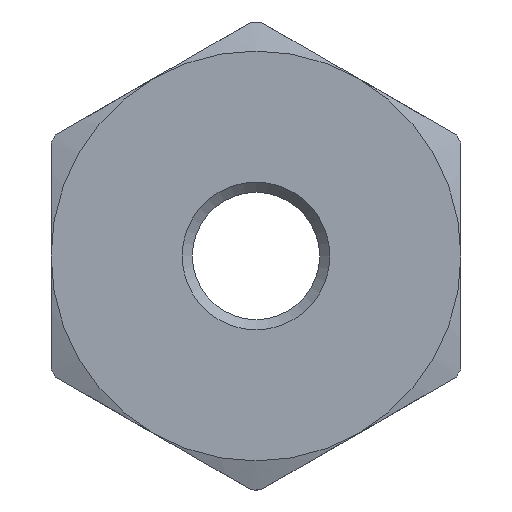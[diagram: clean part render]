
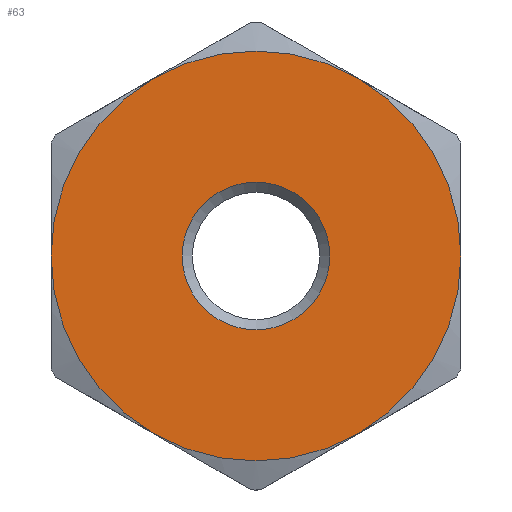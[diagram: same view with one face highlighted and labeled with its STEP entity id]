
A CAD part, front view. The second image highlights one B-rep face of the part: STEP entity #63.
In plain terms, the highlighted planar face has unit normal (0, -1, 0).
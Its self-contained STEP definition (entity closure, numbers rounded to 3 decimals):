
#63=ADVANCED_FACE('',(#209,#211),#213,.F.);
#209=FACE_BOUND('',#210,.T.);
#210=EDGE_LOOP('',(#399,#400,#401,#402,#403,#404));
#211=FACE_BOUND('',#212,.T.);
#212=EDGE_LOOP('',(#405));
#213=PLANE('',#214);
#214=AXIS2_PLACEMENT_3D('',#215,#216,#217);
#215=CARTESIAN_POINT('',(0.,0.,0.));
#216=DIRECTION('',(0.,1.,0.));
#217=DIRECTION('',(-1.,0.,0.));
#399=ORIENTED_EDGE('',*,*,#448,.T.);
#400=ORIENTED_EDGE('',*,*,#444,.T.);
#401=ORIENTED_EDGE('',*,*,#440,.T.);
#402=ORIENTED_EDGE('',*,*,#436,.T.);
#403=ORIENTED_EDGE('',*,*,#432,.T.);
#404=ORIENTED_EDGE('',*,*,#428,.T.);
#405=ORIENTED_EDGE('',*,*,#475,.T.);
#428=EDGE_CURVE('',#490,#488,#491,.F.);
#432=EDGE_CURVE('',#497,#490,#498,.F.);
#436=EDGE_CURVE('',#504,#497,#505,.F.);
#440=EDGE_CURVE('',#511,#504,#512,.F.);
#444=EDGE_CURVE('',#518,#511,#519,.F.);
#448=EDGE_CURVE('',#488,#518,#525,.F.);
#475=EDGE_CURVE('',#565,#565,#566,.T.);
#488=VERTEX_POINT('',#591);
#490=VERTEX_POINT('',#613);
#491=CIRCLE('',#614,30.);
#497=VERTEX_POINT('',#665);
#498=CIRCLE('',#666,30.);
#504=VERTEX_POINT('',#727);
#505=CIRCLE('',#728,30.);
#511=VERTEX_POINT('',#779);
#512=CIRCLE('',#780,30.);
#518=VERTEX_POINT('',#831);
#519=CIRCLE('',#832,30.);
#525=CIRCLE('',#888,30.);
#565=VERTEX_POINT('',#1007);
#566=CIRCLE('',#1008,10.816);
#591=CARTESIAN_POINT('',(15.,0.,-25.981));
#613=CARTESIAN_POINT('',(-15.,0.,-25.981));
#614=AXIS2_PLACEMENT_3D('',#615,#616,#617);
#615=CARTESIAN_POINT('',(0.,0.,0.));
#616=DIRECTION('',(0.,1.,0.));
#617=DIRECTION('',(0.5,0.,-0.866));
#665=CARTESIAN_POINT('',(-30.,0.,0.));
#666=AXIS2_PLACEMENT_3D('',#667,#668,#669);
#667=CARTESIAN_POINT('',(0.,0.,0.));
#668=DIRECTION('',(0.,1.,0.));
#669=DIRECTION('',(-0.5,0.,-0.866));
#727=CARTESIAN_POINT('',(-15.,0.,25.981));
#728=AXIS2_PLACEMENT_3D('',#729,#730,#731);
#729=CARTESIAN_POINT('',(0.,0.,0.));
#730=DIRECTION('',(0.,1.,0.));
#731=DIRECTION('',(-1.,0.,0.));
#779=CARTESIAN_POINT('',(15.,0.,25.981));
#780=AXIS2_PLACEMENT_3D('',#781,#782,#783);
#781=CARTESIAN_POINT('',(0.,0.,0.));
#782=DIRECTION('',(0.,1.,0.));
#783=DIRECTION('',(-0.5,0.,0.866));
#831=CARTESIAN_POINT('',(30.,0.,0.));
#832=AXIS2_PLACEMENT_3D('',#833,#834,#835);
#833=CARTESIAN_POINT('',(0.,0.,0.));
#834=DIRECTION('',(0.,1.,0.));
#835=DIRECTION('',(0.5,0.,0.866));
#888=AXIS2_PLACEMENT_3D('',#889,#890,#891);
#889=CARTESIAN_POINT('',(0.,0.,0.));
#890=DIRECTION('',(0.,1.,0.));
#891=DIRECTION('',(1.,0.,0.));
#1007=CARTESIAN_POINT('',(-10.816,0.,0.));
#1008=AXIS2_PLACEMENT_3D('',#1009,#1010,#1011);
#1009=CARTESIAN_POINT('',(0.,0.,0.));
#1010=DIRECTION('',(0.,1.,0.));
#1011=DIRECTION('',(-1.,0.,0.));
